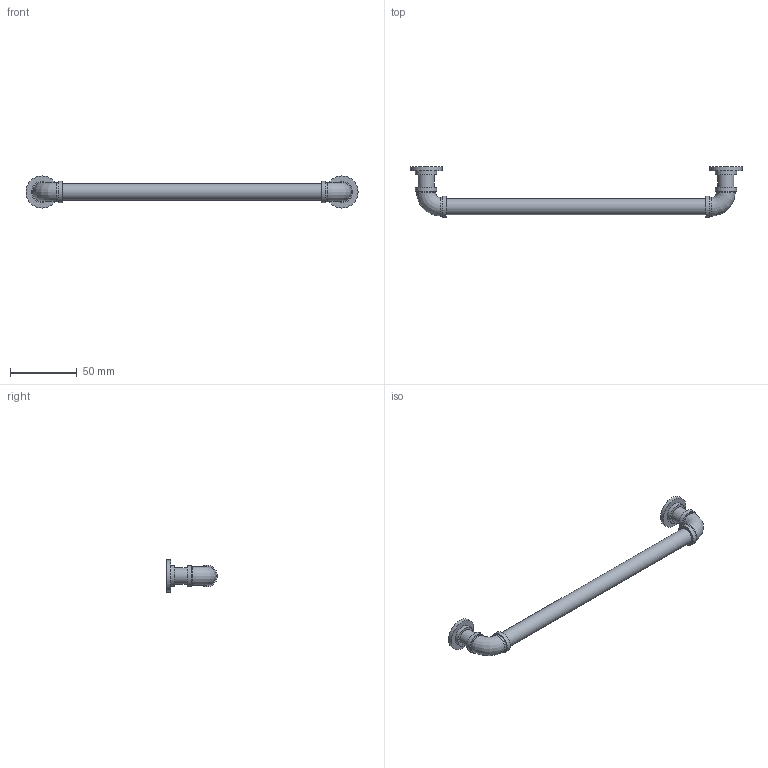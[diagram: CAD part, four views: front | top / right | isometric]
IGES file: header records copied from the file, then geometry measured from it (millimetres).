
Start section: Data from Parasolid IGES Translator 20.0.26, Copyright(c) 2006 Siemens P LM Software. All Rights Reserved.
Global section: file name: 9266565.igs; native system: By Siemens PLM Incorporated; preprocessor: XPlus GENERIC/IGES 20.0.26; author: Noname; organization: Noname; date: 20200630.121719; units: millimetre
Bounding box: 248 x 38 x 24 mm (x, y, z)
Surface area: 13324.1 mm2 (no closed solid volume)
Topology: 0 solids, 0 shells, 35 faces, 114 edges, 86 vertices
Faces by surface type: revolution 19, extrusion 16
